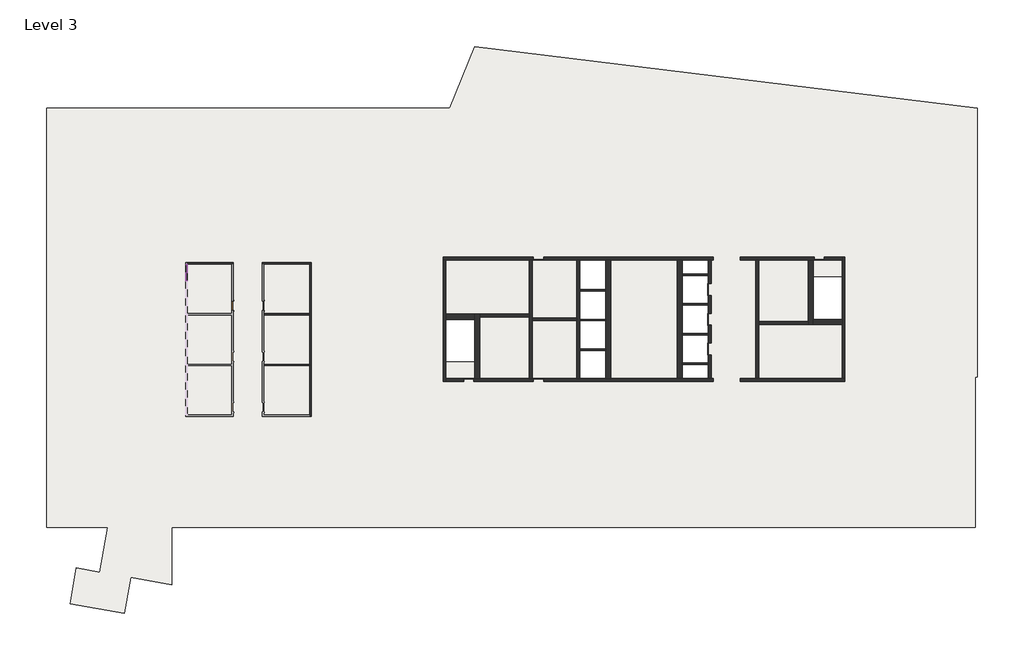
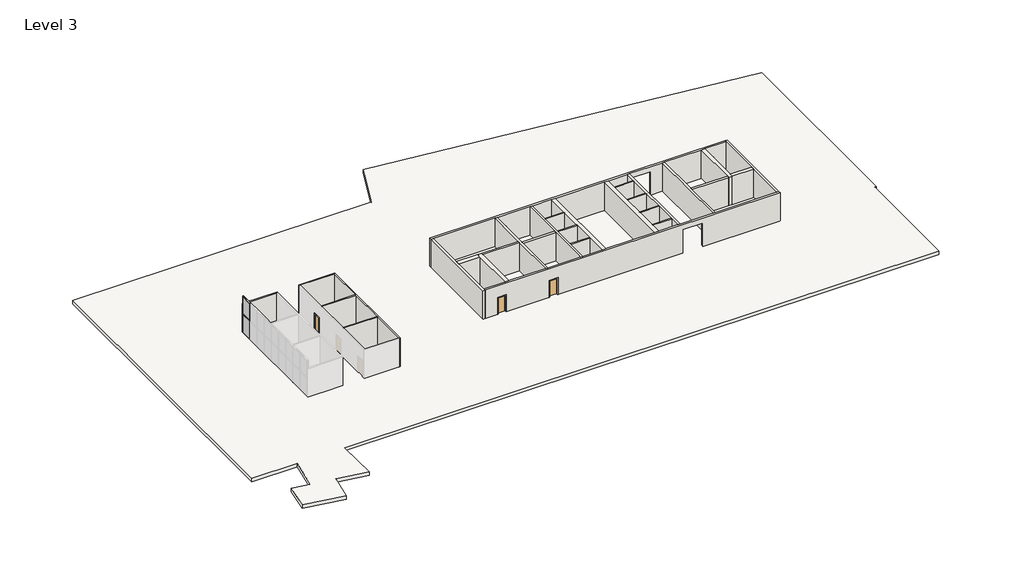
# One storey, part 2 of 2: 29 walls, 6 doors, 5 members, 3 proxies, 2 plates, 1 slab.
"""IFC4 building model written with IfcOpenShell, lengths in millimetres."""

from ifc_helpers import new_model, si_unit, frame, origin, place, context, project, spatial, polyline, outline, extrude, faceted_brep, transform, mapped, element, save
from components import proxy_7fed659c, door_82111de5, door_92889684, door_ec010f1f, door_9d8f1ff2, member_b2bde9e6, member_131a91bd, member_8e4b14e5, member_6186cc23, member_73a57e35, system_panel_glazed_f771dc8d, system_panel_solid_9531ad7b

model = new_model("IFC4")

# Units and contexts
model_context = context("Model", 3, world=origin())
ifc_project = project(units=[si_unit("LENGTHUNIT", "METRE", prefix="MILLI")], contexts=[model_context])

# Site, building, storey
site = spatial("IfcSite", under=ifc_project)
building = spatial("IfcBuilding", under=site)
storey = spatial("IfcBuildingStorey", under=building, Name="Level 3", Elevation=7315.2)

# Proxies
placement = place(None, origin())
proxy_shape = proxy_7fed659c(model_context)
element("IfcBuildingElementProxy", 1, Name="Elevator%20Door-Center[1] : 42\" x 84\"", ObjectType="Elevator%20Door-Center[1] : 42\" x 84\"", at=placement, inside=storey, context=model_context, shape_type="MappedRepresentation", body=[
    mapped(proxy_shape, transform((-9030.2427926, -6266.0747049, 7315.2), x_axis=(0.0, 1.0, 0.0), y_axis=(-1.0, 0.0, 0.0), z_axis=(0.0, 0.0, 1.0))),
])
element("IfcBuildingElementProxy", 2, Name="Elevator%20Door-Center[1] : 42\" x 84\"", ObjectType="Elevator%20Door-Center[1] : 42\" x 84\"", at=placement, inside=storey, context=model_context, shape_type="MappedRepresentation", body=[
    mapped(proxy_shape, transform((-9030.2427926, -8933.0747049, 7315.2), x_axis=(0.0, 1.0, 0.0), y_axis=(-1.0, 0.0, 0.0), z_axis=(0.0, 0.0, 1.0))),
])
element("IfcBuildingElementProxy", 3, Name="Elevator%20Door-Center[1] : 42\" x 84\"", ObjectType="Elevator%20Door-Center[1] : 42\" x 84\"", at=placement, inside=storey, context=model_context, shape_type="MappedRepresentation", body=[
    mapped(proxy_shape, transform((-9030.2427926, -11600.0747049, 7315.2), x_axis=(0.0, 1.0, 0.0), y_axis=(-1.0, 0.0, 0.0), z_axis=(0.0, 0.0, 1.0))),
])

# Doors
door_shape = door_82111de5(model_context)
element("IfcDoor", 4, ObjectType="Single-Flush : 34\" x 80\"", at=placement, inside=storey, context=model_context, shape_type="MappedRepresentation", body=[
    mapped(door_shape, transform((-51923.5856498, -7813.0103492, 7315.2), x_axis=(0.0, -1.0, 0.0), y_axis=(1.0, 0.0, 0.0), z_axis=(0.0, 0.0, 1.0))),
])
door_2_shape = door_92889684(model_context)
element("IfcDoor", 5, ObjectType="Single-Flush : 34\" x 80\"", at=placement, inside=storey, context=model_context, shape_type="MappedRepresentation", body=[
    mapped(door_2_shape, transform((-49194.8999355, -7813.0103492, 7315.2), x_axis=(0.0, -1.0, 0.0), y_axis=(1.0, 0.0, 0.0), z_axis=(0.0, 0.0, 1.0))),
])
door_3_shape = door_ec010f1f(model_context)
element("IfcDoor", 6, ObjectType="Single-Flush : 36\" x 84\"", at=placement, inside=storey, context=model_context, shape_type="MappedRepresentation", body=[
    mapped(door_3_shape, transform((-30700.0713641, -14493.2103492, 7315.2), x_axis=(1.0, 0.0, 0.0), y_axis=(0.0, 1.0, 0.0), z_axis=(0.0, 0.0, 1.0))),
])
element("IfcDoor", 7, ObjectType="Single-Flush : 36\" x 84\"", at=placement, inside=storey, context=model_context, shape_type="MappedRepresentation", body=[
    mapped(door_3_shape, transform((817.7000645, -3571.2103492, 7315.2), x_axis=(-1.0, 0.0, 0.0), y_axis=(0.0, -1.0, 0.0), z_axis=(0.0, 0.0, 1.0))),
])
element("IfcDoor", 8, ObjectType="Single-Flush : 36\" x 84\"", at=placement, inside=storey, context=model_context, shape_type="MappedRepresentation", body=[
    mapped(door_3_shape, transform((-24433.5285069, -3571.2103492, 7315.2), x_axis=(-1.0, 0.0, 0.0), y_axis=(0.0, -1.0, 0.0), z_axis=(0.0, 0.0, 1.0))),
])
door_4_shape = door_9d8f1ff2(model_context)
element("IfcDoor", 9, ObjectType="Single-Flush : 36\" x 84\"", at=placement, inside=storey, context=model_context, shape_type="MappedRepresentation", body=[
    mapped(door_4_shape, transform((-24433.5285069, -14493.2103492, 7315.2), x_axis=(-1.0, 0.0, 0.0), y_axis=(0.0, -1.0, 0.0), z_axis=(0.0, 0.0, 1.0))),
])

# Members
member_shape = member_b2bde9e6(model_context)
element("IfcMember", 10, ObjectType="Rectangular Mullion : 2.5\" x 5\" rectangular", at=placement, inside=storey, context=model_context, shape_type="MappedRepresentation", body=[
    mapped(member_shape, transform((-56063.7856498, -4066.5103492, 7353.3), x_axis=(0.0, 1.0, 0.0), y_axis=(1.0, 0.0, 0.0), z_axis=(0.0, 0.0, -1.0))),
])
member_2_shape = member_131a91bd(model_context)
element("IfcMember", 11, ObjectType="Rectangular Mullion : 2.5\" x 5\" rectangular", at=placement, inside=storey, context=model_context, shape_type="MappedRepresentation", body=[
    mapped(member_2_shape, transform((-56063.7856498, -4066.5103492, 11988.8), x_axis=(0.0, 0.0, 1.0), y_axis=(1.0, 0.0, 0.0), z_axis=(0.0, 1.0, 0.0))),
])
member_3_shape = member_8e4b14e5(model_context)
element("IfcMember", 12, ObjectType="Rectangular Mullion : 2.5\" x 5\" rectangular", at=placement, inside=storey, context=model_context, shape_type="MappedRepresentation", body=[
    mapped(member_3_shape, transform((-56063.7856498, -4130.0103492, 9728.2), x_axis=(0.0, 0.0, 1.0), y_axis=(1.0, 0.0, 0.0), z_axis=(0.0, 1.0, 0.0))),
])
member_4_shape = member_6186cc23(model_context)
element("IfcMember", 13, ObjectType="Rectangular Mullion : 2.5\" x 5\" rectangular", at=placement, inside=storey, context=model_context, shape_type="MappedRepresentation", body=[
    mapped(member_4_shape, transform((-56063.7856498, -5576.3992381, 9759.95), x_axis=(0.0, 1.0, 0.0), y_axis=(1.0, 0.0, 0.0), z_axis=(0.0, 0.0, -1.0))),
])
member_5_shape = member_73a57e35(model_context)
element("IfcMember", 14, ObjectType="Rectangular Mullion : 2.5\" x 5\" rectangular", at=placement, inside=storey, context=model_context, shape_type="MappedRepresentation", body=[
    mapped(member_5_shape, transform((-56063.7856498, -4066.5103492, 9728.2), x_axis=(0.0, 1.0, 0.0), y_axis=(1.0, 0.0, 0.0), z_axis=(0.0, 0.0, -1.0))),
])

# Plates
system_panel_glazed_shape = system_panel_glazed_f771dc8d(model_context)
element("IfcPlate", 15, ObjectType="System Panel : Glazed", at=placement, inside=storey, context=model_context, shape_type="MappedRepresentation", body=[
    mapped(system_panel_glazed_shape, transform((-56063.7856498, -4837.3297936, 7353.3), x_axis=(0.0, 1.0, 0.0), y_axis=(-1.0, 0.0, 0.0), z_axis=(0.0, 0.0, 1.0))),
])
system_panel_solid_shape = system_panel_solid_9531ad7b(model_context)
element("IfcPlate", 16, ObjectType="System Panel : Solid", at=placement, inside=storey, context=model_context, shape_type="MappedRepresentation", body=[
    mapped(system_panel_solid_shape, transform((-56063.7856498, -4837.3297936, 9759.95), x_axis=(0.0, 1.0, 0.0), y_axis=(-1.0, 0.0, 0.0), z_axis=(0.0, 0.0, 1.0))),
])

# Slab
element("IfcSlab", 17, ObjectType="Steel Bar Joist 14\" - Concrete", at=placement, inside=storey, context=model_context, shape_type="SweptSolid", body=[
    extrude(outline(polyline([(-68660.7599961, -27742.4853492), (-68660.7599961, 9954.2896508), (-32421.4843139, 9954.2896508), (-30175.817983, 15512.5088637), (15043.3054088, 9960.2986536), (15043.3054088, -14218.4266737), (14830.5804088, -14218.4266737), (14830.5804088, -27735.220667), (-57415.8125003, -27735.220667), (-57415.8125003, -32919.911766), (-61087.9334678, -32272.417763), (-61658.0117526, -35505.4923758), (-66551.3983764, -34642.656287), (-65981.3200915, -31409.5816742), (-63880.1342697, -31780.0774261), (-63168.1978494, -27742.4853492), (-68660.7599961, -27742.4853492)]), holes=[polyline([(-32750.2142212, -9032.2103492), (-32750.2142212, -12842.2103492), (-30166.6713641, -12842.2103492), (-30166.6713641, -9032.2103492), (-32750.2142212, -9032.2103492)]), polyline([(-20725.1285069, -3698.2103492), (-20725.1285069, -14366.2103492), (-18385.1284437, -14366.2103492), (-18385.1284437, -3698.2103492), (-20725.1285069, -3698.2103492)]), polyline([(-9157.2427926, -3698.2103492), (-11497.2428559, -3698.2103492), (-11497.2428559, -14366.2103492), (-9157.2427926, -14366.2103492), (-9157.2427926, -3698.2103492)]), polyline([(2867.8429217, -9032.2103492), (2867.8429217, -5222.2103492), (284.3000645, -5222.2103492), (284.3000645, -9032.2103492), (2867.8429217, -9032.2103492)])]), frame((0.0, 0.0, 6880.225), z_axis=(0.0, 0.0, 1.0), x_axis=(1.0, 0.0, 0.0)), (0.0, 0.0, 1.0), 434.975),
])

# Walls
element("IfcWall", 18, ObjectType="Core-shaft 10\" Concrete", at=placement, inside=storey, context=model_context, shape_type="Brep", body=[
    faceted_brep([(-24890.7285069, -14366.2103492, 9448.8), (-24890.7285069, -14366.2103492, 7315.2), (-24992.3285069, -14366.2103492, 7315.2), (-25246.3285069, -14366.2103492, 7315.2), (-29709.4713641, -14366.2103492, 7315.2), (-30166.6713641, -14366.2103492, 7315.2), (-30242.8713641, -14366.2103492, 7315.2), (-30242.8713641, -14366.2103492, 9448.8), (-31157.2713641, -14366.2103492, 9448.8), (-31157.2713641, -14366.2103492, 7315.2), (-32750.2142212, -14366.2103492, 7315.2), (-32750.2142212, -14366.2103492, 10972.8), (-30166.6713641, -14366.2103492, 10972.8), (-29709.4713641, -14366.2103492, 10972.8), (-25246.3285069, -14366.2103492, 10972.8), (-24992.3285069, -14366.2103492, 10972.8), (-20979.1285069, -14366.2103492, 10972.8), (-20725.1285069, -14366.2103492, 10972.8), (-18385.1284437, -14366.2103492, 10972.8), (-17927.9284437, -14366.2103492, 10972.8), (-11954.4428559, -14366.2103492, 10972.8), (-11497.2428559, -14366.2103492, 10972.8), (-9157.2427926, -14366.2103492, 10972.8), (-8903.2427926, -14366.2103492, 10972.8), (-4890.0427926, -14366.2103492, 10972.8), (-4636.0427926, -14366.2103492, 10972.8), (2867.8429217, -14366.2103492, 10972.8), (3121.8429217, -14366.2103492, 10972.8), (3121.8429217, -14366.2103492, 7315.2), (2867.8429217, -14366.2103492, 7315.2), (-4636.0427926, -14366.2103492, 7315.2), (-4890.0427926, -14366.2103492, 7315.2), (-6276.1570783, -14366.2103492, 7315.2), (-6276.1570783, -14366.2103492, 10363.2), (-8714.5570783, -14366.2103492, 10363.2), (-8714.5570783, -14366.2103492, 7315.2), (-8903.2427926, -14366.2103492, 7315.2), (-9157.2427926, -14366.2103492, 7315.2), (-11497.2428559, -14366.2103492, 7315.2), (-11954.4428559, -14366.2103492, 7315.2), (-17927.9284437, -14366.2103492, 7315.2), (-18385.1284437, -14366.2103492, 7315.2), (-20725.1285069, -14366.2103492, 7315.2), (-20979.1285069, -14366.2103492, 7315.2), (-23976.3285069, -14366.2103492, 7315.2), (-23976.3285069, -14366.2103492, 9448.8), (-30242.8713641, -14620.2103492, 7315.2), (-24890.7285069, -14620.2103492, 7315.2), (-24890.7285069, -14620.2103492, 9448.8), (-23976.3285069, -14620.2103492, 9448.8), (-23976.3285069, -14620.2103492, 7315.2), (-8714.5570783, -14620.2103492, 7315.2), (-8714.5570783, -14620.2103492, 10363.2), (-6276.1570783, -14620.2103492, 10363.2), (-6276.1570783, -14620.2103492, 7315.2), (3121.8429217, -14620.2103492, 7315.2), (3121.8429217, -14620.2103492, 10972.8), (-32750.2142212, -14620.2103492, 10972.8), (-32750.2142212, -14620.2103492, 7315.2), (-31157.2713641, -14620.2103492, 7315.2), (-31157.2713641, -14620.2103492, 9448.8), (-30242.8713641, -14620.2103492, 9448.8)], [[[0, 1, 2, 3, 4, 5, 6, 7, 8, 9, 10, 11, 12, 13, 14, 15, 16, 17, 18, 19, 20, 21, 22, 23, 24, 25, 26, 27, 28, 29, 30, 31, 32, 33, 34, 35, 36, 37, 38, 39, 40, 41, 42, 43, 44, 45]], [[46, 47, 48, 49, 50, 51, 52, 53, 54, 55, 56, 57, 58, 59, 60, 61]], [[59, 58, 10, 9]], [[44, 43, 42, 41, 40, 39, 38, 37, 36, 35, 51, 50]], [[6, 5, 4, 3, 2, 1, 47, 46]], [[28, 55, 54, 32, 31, 30, 29]], [[27, 26, 25, 24, 23, 22, 21, 20, 19, 18, 17, 16, 15, 14, 13, 12, 11, 57, 56]], [[7, 6, 46, 61]], [[8, 7, 61, 60]], [[9, 8, 60, 59]], [[33, 53, 52, 34]], [[53, 33, 32, 54]], [[34, 52, 51, 35]], [[48, 47, 1, 0]], [[49, 48, 0, 45]], [[50, 49, 45, 44]], [[28, 27, 56, 55]], [[11, 10, 58, 57]]]),
])
element("IfcWall", 19, ObjectType="Core-shaft 10\" Concrete", at=placement, inside=storey, context=model_context, shape_type="Brep", body=[
    faceted_brep([(2867.8429217, -3444.2103492, 7315.2), (2867.8429217, -3698.2103492, 7315.2), (2867.8429217, -9032.2103492, 7315.2), (2867.8429217, -9489.4103492, 7315.2), (2867.8429217, -14366.2103492, 7315.2), (2867.8429217, -14366.2103492, 10972.8), (2867.8429217, -9489.4103492, 10972.8), (2867.8429217, -9032.2103492, 10972.8), (2867.8429217, -3698.2103492, 10972.8), (2867.8429217, -3444.2103492, 10972.8), (3121.8429217, -3444.2103492, 7315.2), (3121.8429217, -3444.2103492, 10972.8), (3121.8429217, -14366.2103492, 10972.8), (3121.8429217, -14366.2103492, 7315.2)], [[[0, 1, 2, 3, 4, 5, 6, 7, 8, 9]], [[10, 11, 12, 13]], [[4, 3, 2, 1, 0, 10, 13]], [[9, 8, 7, 6, 5, 12, 11]], [[0, 9, 11, 10]], [[5, 4, 13, 12]]]),
])
element("IfcWall", 20, ObjectType="Core-shaft 10\" Concrete", at=placement, inside=storey, context=model_context, shape_type="Brep", body=[
    faceted_brep([(-33004.2142212, -3698.2103492, 7315.2), (-32750.2142212, -3698.2103492, 7315.2), (-25246.3285069, -3698.2103492, 7315.2), (-24992.3285069, -3698.2103492, 7315.2), (-24890.7285069, -3698.2103492, 7315.2), (-24890.7285069, -3698.2103492, 9448.8), (-23976.3285069, -3698.2103492, 9448.8), (-23976.3285069, -3698.2103492, 7315.2), (-20979.1285069, -3698.2103492, 7315.2), (-20725.1285069, -3698.2103492, 7315.2), (-18385.1284437, -3698.2103492, 7315.2), (-17927.9284437, -3698.2103492, 7315.2), (-11954.4428559, -3698.2103492, 7315.2), (-11497.2428559, -3698.2103492, 7315.2), (-9157.2427926, -3698.2103492, 7315.2), (-8903.2427926, -3698.2103492, 7315.2), (-8714.5570783, -3698.2103492, 7315.2), (-8714.5570783, -3698.2103492, 10363.2), (-6276.1570783, -3698.2103492, 10363.2), (-6276.1570783, -3698.2103492, 7315.2), (-4890.0427926, -3698.2103492, 7315.2), (-4636.0427926, -3698.2103492, 7315.2), (-172.8999355, -3698.2103492, 7315.2), (284.3000645, -3698.2103492, 7315.2), (360.5000645, -3698.2103492, 7315.2), (360.5000645, -3698.2103492, 9448.8), (1274.9000645, -3698.2103492, 9448.8), (1274.9000645, -3698.2103492, 7315.2), (2867.8429217, -3698.2103492, 7315.2), (2867.8429217, -3698.2103492, 10972.8), (284.3000645, -3698.2103492, 10972.8), (-172.8999355, -3698.2103492, 10972.8), (-4636.0427926, -3698.2103492, 10972.8), (-4890.0427926, -3698.2103492, 10972.8), (-8903.2427926, -3698.2103492, 10972.8), (-9157.2427926, -3698.2103492, 10972.8), (-11497.2428559, -3698.2103492, 10972.8), (-11954.4428559, -3698.2103492, 10972.8), (-17927.9284437, -3698.2103492, 10972.8), (-18385.1284437, -3698.2103492, 10972.8), (-20725.1285069, -3698.2103492, 10972.8), (-20979.1285069, -3698.2103492, 10972.8), (-24992.3285069, -3698.2103492, 10972.8), (-25246.3285069, -3698.2103492, 10972.8), (-32750.2142212, -3698.2103492, 10972.8), (-33004.2142212, -3698.2103492, 10972.8), (-24890.7285069, -3444.2103492, 9448.8), (-24890.7285069, -3444.2103492, 7315.2), (-33004.2142212, -3444.2103492, 7315.2), (-33004.2142212, -3444.2103492, 10972.8), (2867.8429217, -3444.2103492, 10972.8), (2867.8429217, -3444.2103492, 7315.2), (1274.9000645, -3444.2103492, 7315.2), (1274.9000645, -3444.2103492, 9448.8), (360.5000645, -3444.2103492, 9448.8), (360.5000645, -3444.2103492, 7315.2), (-6276.1570783, -3444.2103492, 7315.2), (-6276.1570783, -3444.2103492, 10363.2), (-8714.5570783, -3444.2103492, 10363.2), (-8714.5570783, -3444.2103492, 7315.2), (-23976.3285069, -3444.2103492, 7315.2), (-23976.3285069, -3444.2103492, 9448.8)], [[[0, 1, 2, 3, 4, 5, 6, 7, 8, 9, 10, 11, 12, 13, 14, 15, 16, 17, 18, 19, 20, 21, 22, 23, 24, 25, 26, 27, 28, 29, 30, 31, 32, 33, 34, 35, 36, 37, 38, 39, 40, 41, 42, 43, 44, 45]], [[46, 47, 48, 49, 50, 51, 52, 53, 54, 55, 56, 57, 58, 59, 60, 61]], [[52, 51, 28, 27]], [[56, 55, 24, 23, 22, 21, 20, 19]], [[60, 59, 16, 15, 14, 13, 12, 11, 10, 9, 8, 7]], [[48, 47, 4, 3, 2, 1, 0]], [[45, 44, 43, 42, 41, 40, 39, 38, 37, 36, 35, 34, 33, 32, 31, 30, 29, 50, 49]], [[17, 58, 57, 18]], [[58, 17, 16, 59]], [[18, 57, 56, 19]], [[25, 24, 55, 54]], [[26, 25, 54, 53]], [[27, 26, 53, 52]], [[5, 4, 47, 46]], [[6, 5, 46, 61]], [[7, 6, 61, 60]], [[0, 45, 49, 48]], [[29, 28, 51, 50]]]),
])
element("IfcWall", 21, ObjectType="Core-shaft 10\" Concrete", at=placement, inside=storey, context=model_context, shape_type="Brep", body=[
    faceted_brep([(-32750.2142212, -14620.2103492, 7315.2), (-32750.2142212, -14366.2103492, 7315.2), (-32750.2142212, -9032.2103492, 7315.2), (-32750.2142212, -8575.0103492, 7315.2), (-32750.2142212, -3698.2103492, 7315.2), (-32750.2142212, -3698.2103492, 10972.8), (-32750.2142212, -8575.0103492, 10972.8), (-32750.2142212, -9032.2103492, 10972.8), (-32750.2142212, -14366.2103492, 10972.8), (-32750.2142212, -14620.2103492, 10972.8), (-33004.2142212, -14620.2103492, 7315.2), (-33004.2142212, -14620.2103492, 10972.8), (-33004.2142212, -3698.2103492, 10972.8), (-33004.2142212, -3698.2103492, 7315.2)], [[[0, 1, 2, 3, 4, 5, 6, 7, 8, 9]], [[10, 11, 12, 13]], [[4, 3, 2, 1, 0, 10, 13]], [[9, 8, 7, 6, 5, 12, 11]], [[0, 9, 11, 10]], [[5, 4, 13, 12]]]),
])
element("IfcWall", 22, ObjectType="Core-shaft 10\" Concrete", at=placement, inside=storey, context=model_context, shape_type="SweptSolid", body=[
    extrude(outline(polyline([(-20725.1285069, -3698.2103492), (-20725.1285069, -14366.2103492), (-20979.1285069, -14366.2103492), (-20979.1285069, -3698.2103492), (-20725.1285069, -3698.2103492)])), frame((0.0, 0.0, 7315.2), z_axis=(0.0, 0.0, 1.0), x_axis=(1.0, 0.0, 0.0)), (0.0, 0.0, 1.0), 3657.6),
])
element("IfcWall", 23, ObjectType="Core-shaft 10\" Concrete", at=placement, inside=storey, context=model_context, shape_type="Brep", body=[
    faceted_brep([(-24992.3285069, -14366.2103492, 7315.2), (-24992.3285069, -3698.2103492, 7315.2), (-24992.3285069, -3698.2103492, 10972.8), (-24992.3285069, -14366.2103492, 10972.8), (-25246.3285069, -14366.2103492, 7315.2), (-25246.3285069, -14366.2103492, 10972.8), (-25246.3285069, -8829.0103492, 10972.8), (-25246.3285069, -8575.0103492, 10972.8), (-25246.3285069, -3698.2103492, 10972.8), (-25246.3285069, -3698.2103492, 7315.2), (-25246.3285069, -8575.0103492, 7315.2), (-25246.3285069, -8829.0103492, 7315.2)], [[[0, 1, 2, 3]], [[4, 5, 6, 7, 8, 9, 10, 11]], [[1, 0, 4, 11, 10, 9]], [[3, 2, 8, 7, 6, 5]], [[2, 1, 9, 8]], [[0, 3, 5, 4]]]),
])
element("IfcWall", 24, ObjectType="Core-shaft 10\" Concrete", at=placement, inside=storey, context=model_context, shape_type="SweptSolid", body=[
    extrude(outline(polyline([(-25246.3285069, -8829.0103492), (-29709.4713641, -8829.0103492), (-29709.4713641, -8575.0103492), (-25246.3285069, -8575.0103492), (-25246.3285069, -8829.0103492)])), frame((0.0, 0.0, 7315.2), z_axis=(0.0, 0.0, 1.0), x_axis=(1.0, 0.0, 0.0)), (0.0, 0.0, 1.0), 3657.6),
])
element("IfcWall", 25, ObjectType="Core-shaft 10\" Concrete", at=placement, inside=storey, context=model_context, shape_type="SweptSolid", body=[
    extrude(outline(polyline([(-14366.2103492, 10972.8), (-3698.2103492, 10972.8), (-3698.2103492, 7315.2), (-5825.4603492, 7315.2), (-5825.4603492, 9474.2), (-6904.9603492, 9474.2), (-6904.9603492, 7315.2), (-8492.4603492, 7315.2), (-8492.4603492, 9474.2), (-9571.9603492, 9474.2), (-9571.9603492, 7315.2), (-11159.4603492, 7315.2), (-11159.4603492, 9474.2), (-12238.9603492, 9474.2), (-12238.9603492, 7315.2), (-14366.2103492, 7315.2), (-14366.2103492, 10972.8)])), frame((-9157.2427926, 0.0, 0.0), z_axis=(1.0, 0.0, 0.0), x_axis=(0.0, 1.0, 0.0)), (0.0, 0.0, 1.0), 254.0),
])
element("IfcWall", 26, ObjectType="Core-shaft 10\" Concrete", at=placement, inside=storey, context=model_context, shape_type="Brep", body=[
    faceted_brep([(-4636.0427926, -14366.2103492, 7315.2), (-4636.0427926, -9489.4103492, 7315.2), (-4636.0427926, -9235.4103492, 7315.2), (-4636.0427926, -3698.2103492, 7315.2), (-4636.0427926, -3698.2103492, 10972.8), (-4636.0427926, -9235.4103492, 10972.8), (-4636.0427926, -9489.4103492, 10972.8), (-4636.0427926, -14366.2103492, 10972.8), (-4890.0427926, -14366.2103492, 7315.2), (-4890.0427926, -14366.2103492, 10972.8), (-4890.0427926, -3698.2103492, 10972.8), (-4890.0427926, -3698.2103492, 7315.2)], [[[0, 1, 2, 3, 4, 5, 6, 7]], [[8, 9, 10, 11]], [[3, 2, 1, 0, 8, 11]], [[7, 6, 5, 4, 10, 9]], [[4, 3, 11, 10]], [[0, 7, 9, 8]]]),
])
element("IfcWall", 27, ObjectType="Core-shaft 10\" Concrete", at=placement, inside=storey, context=model_context, shape_type="SweptSolid", body=[
    extrude(outline(polyline([(-4636.0427926, -9235.4103492), (-172.8999355, -9235.4103492), (-172.8999355, -9489.4103492), (-4636.0427926, -9489.4103492), (-4636.0427926, -9235.4103492)])), frame((0.0, 0.0, 7315.2), z_axis=(0.0, 0.0, 1.0), x_axis=(1.0, 0.0, 0.0)), (0.0, 0.0, 1.0), 3657.6),
])
element("IfcWall", 28, ObjectType="Core-shaft 10\" Concrete", at=placement, inside=storey, context=model_context, shape_type="SweptSolid", body=[
    extrude(outline(polyline([(-20979.1285069, -9159.2103492), (-24992.3285069, -9159.2103492), (-24992.3285069, -8905.2103492), (-20979.1285069, -8905.2103492), (-20979.1285069, -9159.2103492)])), frame((0.0, 0.0, 7315.2), z_axis=(0.0, 0.0, 1.0), x_axis=(1.0, 0.0, 0.0)), (0.0, 0.0, 1.0), 3657.6),
])
element("IfcWall", 29, ObjectType="Core-shaft 18\" Concrete", at=placement, inside=storey, context=model_context, shape_type="SweptSolid", body=[
    extrude(outline(polyline([(-18385.1284437, -14366.2103492), (-18385.1284437, -3698.2103492), (-17927.9284437, -3698.2103492), (-17927.9284437, -14366.2103492), (-18385.1284437, -14366.2103492)])), frame((0.0, 0.0, 7315.2), z_axis=(0.0, 0.0, 1.0), x_axis=(1.0, 0.0, 0.0)), (0.0, 0.0, 1.0), 3657.6),
])
element("IfcWall", 30, ObjectType="Core-shaft 18\" Concrete", at=placement, inside=storey, context=model_context, shape_type="Brep", body=[
    faceted_brep([(-29709.4713641, -14366.2103492, 7315.2), (-29709.4713641, -8829.0103492, 7315.2), (-29709.4713641, -8575.0103492, 7315.2), (-29709.4713641, -8575.0103492, 10972.8), (-29709.4713641, -8829.0103492, 10972.8), (-29709.4713641, -14366.2103492, 10972.8), (-30166.6713641, -14366.2103492, 7315.2), (-30166.6713641, -14366.2103492, 10972.8), (-30166.6713641, -9032.2103492, 10972.8), (-30166.6713641, -8575.0103492, 10972.8), (-30166.6713641, -8575.0103492, 7315.2), (-30166.6713641, -9032.2103492, 7315.2)], [[[0, 1, 2, 3, 4, 5]], [[6, 7, 8, 9, 10, 11]], [[2, 1, 0, 6, 11, 10]], [[5, 4, 3, 9, 8, 7]], [[3, 2, 10, 9]], [[0, 5, 7, 6]]]),
])
element("IfcWall", 31, ObjectType="Core-shaft 18\" Concrete", at=placement, inside=storey, context=model_context, shape_type="SweptSolid", body=[
    extrude(outline(polyline([(-32750.2142212, -8575.0103492), (-30166.6713641, -8575.0103492), (-30166.6713641, -9032.2103492), (-32750.2142212, -9032.2103492), (-32750.2142212, -8575.0103492)])), frame((0.0, 0.0, 7315.2), z_axis=(0.0, 0.0, 1.0), x_axis=(1.0, 0.0, 0.0)), (0.0, 0.0, 1.0), 3657.6),
])
element("IfcWall", 32, ObjectType="Core-shaft 18\" Concrete", at=placement, inside=storey, context=model_context, shape_type="SweptSolid", body=[
    extrude(outline(polyline([(-11954.4428559, -14366.2103492), (-11954.4428559, -3698.2103492), (-11497.2428559, -3698.2103492), (-11497.2428559, -14366.2103492), (-11954.4428559, -14366.2103492)])), frame((0.0, 0.0, 7315.2), z_axis=(0.0, 0.0, 1.0), x_axis=(1.0, 0.0, 0.0)), (0.0, 0.0, 1.0), 3657.6),
])
element("IfcWall", 33, ObjectType="Core-shaft 18\" Concrete", at=placement, inside=storey, context=model_context, shape_type="Brep", body=[
    faceted_brep([(-172.8999355, -3698.2103492, 7315.2), (-172.8999355, -9235.4103492, 7315.2), (-172.8999355, -9489.4103492, 7315.2), (-172.8999355, -9489.4103492, 10972.8), (-172.8999355, -9235.4103492, 10972.8), (-172.8999355, -3698.2103492, 10972.8), (284.3000645, -3698.2103492, 7315.2), (284.3000645, -3698.2103492, 10972.8), (284.3000645, -9032.2103492, 10972.8), (284.3000645, -9489.4103492, 10972.8), (284.3000645, -9489.4103492, 7315.2), (284.3000645, -9032.2103492, 7315.2)], [[[0, 1, 2, 3, 4, 5]], [[6, 7, 8, 9, 10, 11]], [[2, 1, 0, 6, 11, 10]], [[5, 4, 3, 9, 8, 7]], [[3, 2, 10, 9]], [[0, 5, 7, 6]]]),
])
element("IfcWall", 34, ObjectType="Core-shaft 18\" Concrete", at=placement, inside=storey, context=model_context, shape_type="SweptSolid", body=[
    extrude(outline(polyline([(2867.8429217, -9489.4103492), (284.3000645, -9489.4103492), (284.3000645, -9032.2103492), (2867.8429217, -9032.2103492), (2867.8429217, -9489.4103492)])), frame((0.0, 0.0, 7315.2), z_axis=(0.0, 0.0, 1.0), x_axis=(1.0, 0.0, 0.0)), (0.0, 0.0, 1.0), 3657.6),
])
element("IfcWall", 35, ObjectType="Generic - 5\"", at=placement, inside=storey, context=model_context, shape_type="SweptSolid", body=[
    extrude(outline(polyline([(-18385.1284437, -11826.2103492), (-20725.1285069, -11826.2103492), (-20725.1285069, -11699.2103492), (-18385.1284437, -11699.2103492), (-18385.1284437, -11826.2103492)])), frame((0.0, 0.0, 7315.2), z_axis=(0.0, 0.0, 1.0), x_axis=(1.0, 0.0, 0.0)), (0.0, 0.0, 1.0), 3657.6),
])
element("IfcWall", 36, ObjectType="Generic - 5\"", at=placement, inside=storey, context=model_context, shape_type="SweptSolid", body=[
    extrude(outline(polyline([(-18385.1284437, -9159.2103492), (-20725.1285069, -9159.2103492), (-20725.1285069, -9032.2103492), (-18385.1284437, -9032.2103492), (-18385.1284437, -9159.2103492)])), frame((0.0, 0.0, 7315.2), z_axis=(0.0, 0.0, 1.0), x_axis=(1.0, 0.0, 0.0)), (0.0, 0.0, 1.0), 3657.6),
])
element("IfcWall", 37, ObjectType="Generic - 5\"", at=placement, inside=storey, context=model_context, shape_type="SweptSolid", body=[
    extrude(outline(polyline([(-18385.1284437, -6492.2103492), (-20725.1285069, -6492.2103492), (-20725.1285069, -6365.2103492), (-18385.1284437, -6365.2103492), (-18385.1284437, -6492.2103492)])), frame((0.0, 0.0, 7315.2), z_axis=(0.0, 0.0, 1.0), x_axis=(1.0, 0.0, 0.0)), (0.0, 0.0, 1.0), 3657.6),
])
element("IfcWall", 38, ObjectType="Generic - 5\"", at=placement, inside=storey, context=model_context, shape_type="SweptSolid", body=[
    extrude(outline(polyline([(-11497.2428559, -10302.2103492), (-9157.2427926, -10302.2103492), (-9157.2427926, -10429.2103492), (-11497.2428559, -10429.2103492), (-11497.2428559, -10302.2103492)])), frame((0.0, 0.0, 7315.2), z_axis=(0.0, 0.0, 1.0), x_axis=(1.0, 0.0, 0.0)), (0.0, 0.0, 1.0), 3657.6),
])
element("IfcWall", 39, ObjectType="Generic - 5\"", at=placement, inside=storey, context=model_context, shape_type="SweptSolid", body=[
    extrude(outline(polyline([(-11497.2428559, -7635.2103492), (-9157.2427926, -7635.2103492), (-9157.2427926, -7762.2103492), (-11497.2428559, -7762.2103492), (-11497.2428559, -7635.2103492)])), frame((0.0, 0.0, 7315.2), z_axis=(0.0, 0.0, 1.0), x_axis=(1.0, 0.0, 0.0)), (0.0, 0.0, 1.0), 3657.6),
])
element("IfcWall", 40, ObjectType="Generic - 5\"", at=placement, inside=storey, context=model_context, shape_type="SweptSolid", body=[
    extrude(outline(polyline([(-11497.2428559, -4968.2103492), (-9157.2427926, -4968.2103492), (-9157.2427926, -5095.2103492), (-11497.2428559, -5095.2103492), (-11497.2428559, -4968.2103492)])), frame((0.0, 0.0, 7315.2), z_axis=(0.0, 0.0, 1.0), x_axis=(1.0, 0.0, 0.0)), (0.0, 0.0, 1.0), 3657.6),
])
element("IfcWall", 41, ObjectType="Generic - 5\"", at=placement, inside=storey, context=model_context, shape_type="SweptSolid", body=[
    extrude(outline(polyline([(-11497.2428559, -12969.2103492), (-9157.2427926, -12969.2103492), (-9157.2427926, -13096.2103492), (-11497.2428559, -13096.2103492), (-11497.2428559, -12969.2103492)])), frame((0.0, 0.0, 7315.2), z_axis=(0.0, 0.0, 1.0), x_axis=(1.0, 0.0, 0.0)), (0.0, 0.0, 1.0), 3657.6),
])
element("IfcWall", 42, ObjectType="Interior - Generic - 5\"", at=placement, inside=storey, context=model_context, shape_type="Brep", body=[
    faceted_brep([(-44864.1999355, -3939.5103492, 7315.2), (-49258.3999355, -3939.5103492, 7315.2), (-49258.3999355, -3939.5103492, 10972.8), (-44864.1999355, -3939.5103492, 10972.8), (-44864.1999355, -4066.5103492, 7315.2), (-44864.1999355, -4066.5103492, 10972.8), (-44991.1999355, -4066.5103492, 10972.8), (-49131.3999355, -4066.5103492, 10972.8), (-49258.3999355, -4066.5103492, 10972.8), (-49258.3999355, -4066.5103492, 7315.2), (-49131.3999355, -4066.5103492, 7315.2), (-44991.1999355, -4066.5103492, 7315.2)], [[[0, 1, 2, 3]], [[4, 5, 6, 7, 8, 9, 10, 11]], [[1, 0, 4, 11, 10, 9]], [[3, 2, 8, 7, 6, 5]], [[0, 3, 5, 4]], [[2, 1, 9, 8]]]),
])
element("IfcWall", 43, ObjectType="Interior - Generic - 5\"", at=placement, inside=storey, context=model_context, shape_type="Brep", body=[
    faceted_brep([(-44864.1999355, -17782.5103492, 7315.2), (-44864.1999355, -4066.5103492, 7315.2), (-44864.1999355, -4066.5103492, 10972.8), (-44864.1999355, -17782.5103492, 10972.8), (-44991.1999355, -17782.5103492, 7315.2), (-44991.1999355, -17782.5103492, 10972.8), (-44991.1999355, -17655.5103492, 10972.8), (-44991.1999355, -13210.5103492, 10972.8), (-44991.1999355, -13083.5103492, 10972.8), (-44991.1999355, -8638.5103492, 10972.8), (-44991.1999355, -8511.5103492, 10972.8), (-44991.1999355, -4066.5103492, 10972.8), (-44991.1999355, -4066.5103492, 7315.2), (-44991.1999355, -8511.5103492, 7315.2), (-44991.1999355, -8638.5103492, 7315.2), (-44991.1999355, -13083.5103492, 7315.2), (-44991.1999355, -13210.5103492, 7315.2), (-44991.1999355, -17655.5103492, 7315.2)], [[[0, 1, 2, 3]], [[4, 5, 6, 7, 8, 9, 10, 11, 12, 13, 14, 15, 16, 17]], [[1, 0, 4, 17, 16, 15, 14, 13, 12]], [[3, 2, 11, 10, 9, 8, 7, 6, 5]], [[0, 3, 5, 4]], [[2, 1, 12, 11]]]),
])
element("IfcWall", 44, ObjectType="Interior - Generic - 5\"", at=placement, inside=storey, context=model_context, shape_type="Brep", body=[
    faceted_brep([(-51860.0856498, -3939.5103492, 7315.2), (-56000.2856498, -3939.5103492, 7315.2), (-56000.2856498, -3939.5103492, 10972.8), (-51860.0856498, -3939.5103492, 10972.8), (-51860.0856498, -4066.5103492, 7315.2), (-51860.0856498, -4066.5103492, 10972.8), (-51987.0856498, -4066.5103492, 10972.8), (-56000.2856498, -4066.5103492, 10972.8), (-56000.2856498, -4066.5103492, 7315.2), (-51987.0856498, -4066.5103492, 7315.2)], [[[0, 1, 2, 3]], [[4, 5, 6, 7, 8, 9]], [[1, 0, 4, 9, 8]], [[3, 2, 7, 6, 5]], [[2, 1, 8, 7]], [[0, 3, 5, 4]]]),
])
element("IfcWall", 45, ObjectType="Interior - Generic - 5\"", at=placement, inside=storey, context=model_context, shape_type="SweptSolid", body=[
    extrude(outline(polyline([(-44991.1999355, -8638.5103492), (-49131.3999355, -8638.5103492), (-49131.3999355, -8511.5103492), (-44991.1999355, -8511.5103492), (-44991.1999355, -8638.5103492)])), frame((0.0, 0.0, 7315.2), z_axis=(0.0, 0.0, 1.0), x_axis=(1.0, 0.0, 0.0)), (0.0, 0.0, 1.0), 3657.6),
])
element("IfcWall", 46, ObjectType="Interior - Generic - 5\"", at=placement, inside=storey, context=model_context, shape_type="SweptSolid", body=[
    extrude(outline(polyline([(-44991.1999355, -13210.5103492), (-49131.3999355, -13210.5103492), (-49131.3999355, -13083.5103492), (-44991.1999355, -13083.5103492), (-44991.1999355, -13210.5103492)])), frame((0.0, 0.0, 7315.2), z_axis=(0.0, 0.0, 1.0), x_axis=(1.0, 0.0, 0.0)), (0.0, 0.0, 1.0), 3657.6),
])

save(model, "model.ifc")
